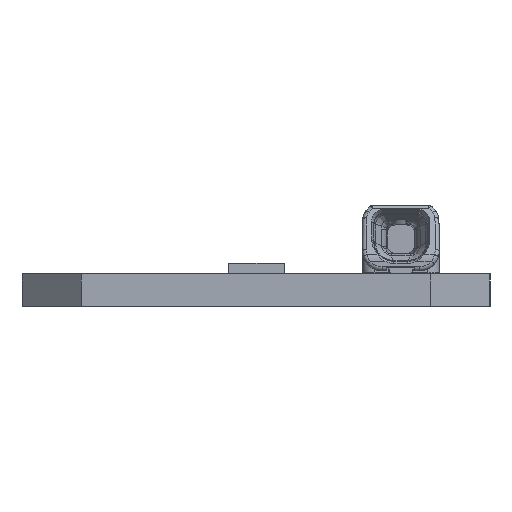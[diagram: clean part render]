
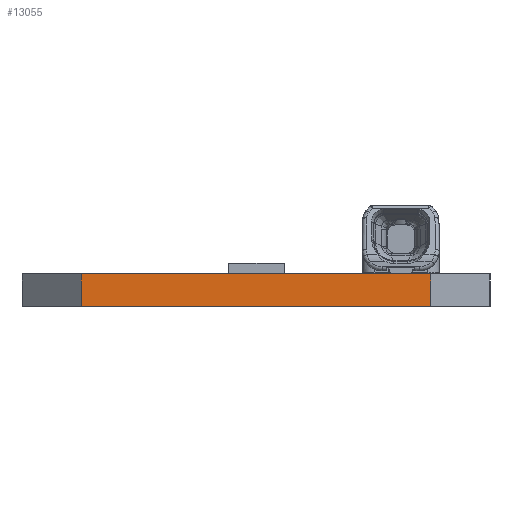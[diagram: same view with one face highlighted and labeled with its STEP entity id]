
A CAD part, left-side view. The second image highlights one B-rep face of the part: STEP entity #13055.
In plain terms, the highlighted planar face has unit normal (-1, 0, 0).
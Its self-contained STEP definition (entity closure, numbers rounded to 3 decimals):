
#493=DIRECTION('',(0.,1.,0.));
#494=VECTOR('',#493,17.6);
#495=CARTESIAN_POINT('',(-34.5,-8.8,0.));
#496=LINE('',#495,#494);
#635=DIRECTION('',(0.,0.,1.));
#636=VECTOR('',#635,1.65);
#637=CARTESIAN_POINT('',(-34.5,8.8,0.));
#638=LINE('',#637,#636);
#642=DIRECTION('',(0.,0.,1.));
#643=VECTOR('',#642,1.65);
#644=CARTESIAN_POINT('',(-34.5,-8.8,0.));
#645=LINE('',#644,#643);
#649=DIRECTION('',(0.,1.,0.));
#650=VECTOR('',#649,17.6);
#651=CARTESIAN_POINT('',(-34.5,-8.8,1.65));
#652=LINE('',#651,#650);
#11252=CARTESIAN_POINT('',(-34.5,-8.8,1.65));
#11254=VERTEX_POINT('',#11252);
#11274=CARTESIAN_POINT('',(-34.5,-8.8,0.));
#11275=VERTEX_POINT('',#11274);
#11292=CARTESIAN_POINT('',(-34.5,8.8,0.));
#11293=VERTEX_POINT('',#11292);
#11304=CARTESIAN_POINT('',(-34.5,8.8,1.65));
#11305=VERTEX_POINT('',#11304);
#13043=CARTESIAN_POINT('',(-34.5,8.8,1.65));
#13044=DIRECTION('',(-1.,0.,0.));
#13045=DIRECTION('',(0.,0.,1.));
#13046=AXIS2_PLACEMENT_3D('',#13043,#13044,#13045);
#13047=PLANE('',#13046);
#13049=ORIENTED_EDGE('',*,*,#13048,.F.);
#13050=ORIENTED_EDGE('',*,*,#12873,.T.);
#13051=ORIENTED_EDGE('',*,*,#13028,.T.);
#13052=ORIENTED_EDGE('',*,*,#12668,.F.);
#13053=EDGE_LOOP('',(#13049,#13050,#13051,#13052));
#13054=FACE_OUTER_BOUND('',#13053,.F.);
#12668=EDGE_CURVE('',#11254,#11305,#652,.T.);
#12873=EDGE_CURVE('',#11275,#11293,#496,.T.);
#13028=EDGE_CURVE('',#11293,#11305,#638,.T.);
#13048=EDGE_CURVE('',#11275,#11254,#645,.T.);
#13055=ADVANCED_FACE('',(#13054),#13047,.T.);
